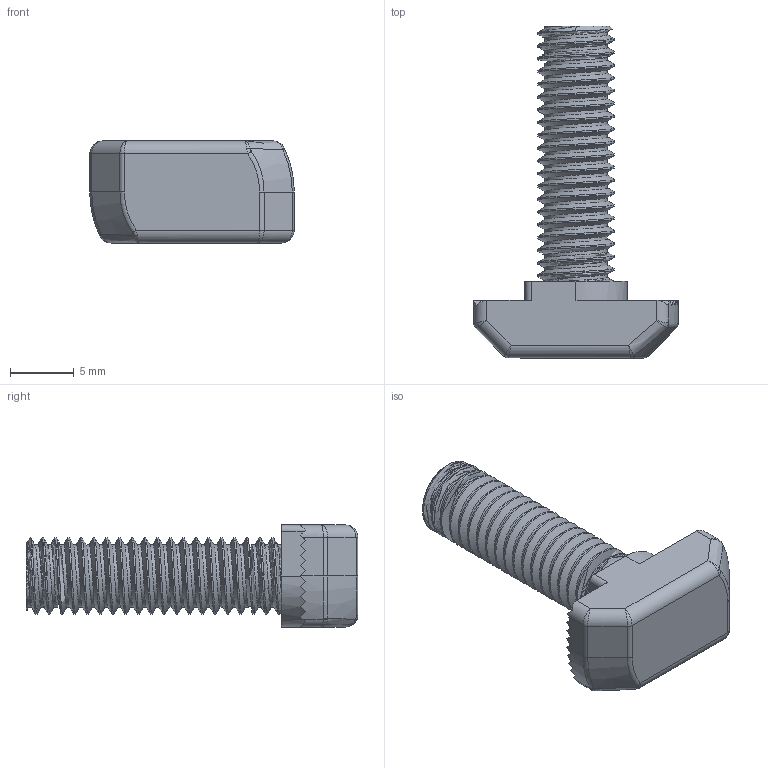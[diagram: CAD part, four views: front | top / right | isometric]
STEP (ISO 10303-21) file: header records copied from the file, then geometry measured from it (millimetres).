
FILE_DESCRIPTION (( 'STEP AP214' ), '1' );
FILE_NAME ('Drop In Bolt - T-Slot - 30 Series - M6 - 20mm.STEP', '2024-09-29T21:43:31', ( '' ), ( '' ), 'SwSTEP 2.0', 'SolidWorks 2024', '' );
FILE_SCHEMA (( 'AUTOMOTIVE_DESIGN' ));
Length unit declared in the file: millimetre
Products named in the file (1): Drop In Bolt - T-Slot - 30 Series - M6 - 20mm
Bounding box: 16 x 26 x 8 mm (x, y, z)
Volume: 1032.8 mm3; surface area: 1031.2 mm2
Topology: 1 solids, 1 shells, 142 faces, 388 edges, 242 vertices
Faces by surface type: cylinder 58, plane 57, bspline 18, cone 5, torus 4
Entity records: 8315 total; most frequent: CARTESIAN_POINT 5294, ORIENTED_EDGE 760, DIRECTION 487, EDGE_CURVE 380, VERTEX_POINT 242, LINE 171, VECTOR 171, AXIS2_PLACEMENT_3D 158
